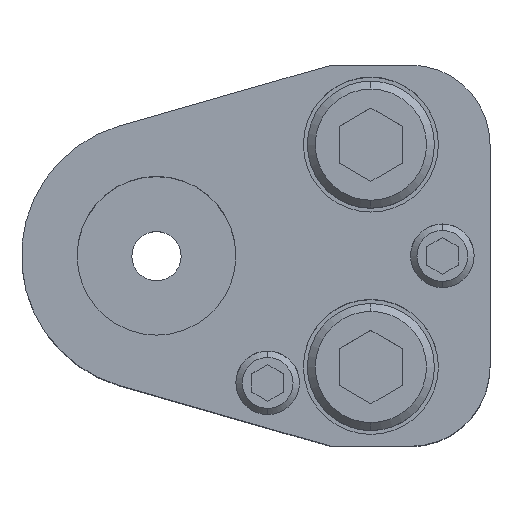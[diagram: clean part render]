
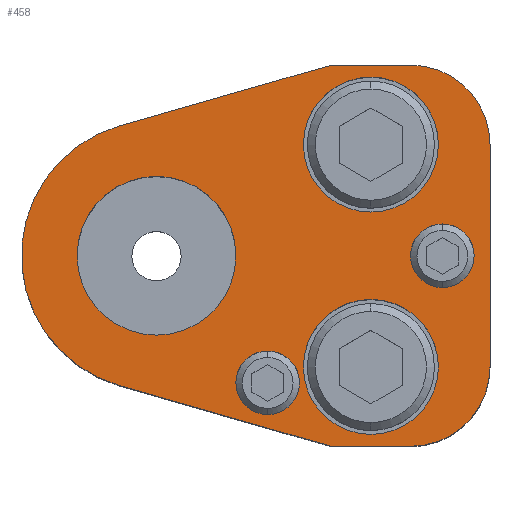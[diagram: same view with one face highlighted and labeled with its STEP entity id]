
A CAD part, top view. The second image highlights one B-rep face of the part: STEP entity #458.
In plain terms, the highlighted planar face has unit normal (0, 0, 1).
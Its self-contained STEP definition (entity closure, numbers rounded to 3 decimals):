
#217=FACE_BOUND('',#825,.T.);
#218=FACE_BOUND('',#826,.T.);
#219=FACE_BOUND('',#827,.T.);
#220=FACE_BOUND('',#828,.T.);
#221=FACE_BOUND('',#829,.T.);
#222=FACE_BOUND('',#830,.T.);
#273=CIRCLE('',#2646,17.);
#275=CIRCLE('',#2651,10.);
#277=CIRCLE('',#2655,10.);
#295=CIRCLE('',#2683,8.5);
#297=CIRCLE('',#2686,8.5);
#299=CIRCLE('',#2690,8.5);
#301=CIRCLE('',#2693,8.5);
#303=CIRCLE('',#2697,4.);
#304=CIRCLE('',#2698,4.);
#305=CIRCLE('',#2699,4.);
#306=CIRCLE('',#2700,4.);
#307=CIRCLE('',#2701,10.);
#308=CIRCLE('',#2702,10.);
#458=ADVANCED_FACE('',(#217,#218,#219,#220,#221,#222),#588,.T.);
#588=PLANE('',#2703);
#825=EDGE_LOOP('',(#1181,#1182,#1183,#1184,#1185,#1186,#1187,#1188));
#826=EDGE_LOOP('',(#1189,#1190));
#827=EDGE_LOOP('',(#1191,#1192));
#828=EDGE_LOOP('',(#1193,#1194));
#829=EDGE_LOOP('',(#1195,#1196));
#830=EDGE_LOOP('',(#1197,#1198));
#1181=ORIENTED_EDGE('',*,*,#1934,.T.);
#1182=ORIENTED_EDGE('',*,*,#1938,.T.);
#1183=ORIENTED_EDGE('',*,*,#1941,.T.);
#1184=ORIENTED_EDGE('',*,*,#1944,.T.);
#1185=ORIENTED_EDGE('',*,*,#1947,.T.);
#1186=ORIENTED_EDGE('',*,*,#1950,.T.);
#1187=ORIENTED_EDGE('',*,*,#1953,.T.);
#1188=ORIENTED_EDGE('',*,*,#1956,.T.);
#1189=ORIENTED_EDGE('',*,*,#1991,.F.);
#1190=ORIENTED_EDGE('',*,*,#1992,.F.);
#1191=ORIENTED_EDGE('',*,*,#1993,.F.);
#1192=ORIENTED_EDGE('',*,*,#1994,.F.);
#1193=ORIENTED_EDGE('',*,*,#1989,.F.);
#1194=ORIENTED_EDGE('',*,*,#1985,.F.);
#1195=ORIENTED_EDGE('',*,*,#1983,.F.);
#1196=ORIENTED_EDGE('',*,*,#1979,.F.);
#1197=ORIENTED_EDGE('',*,*,#1995,.T.);
#1198=ORIENTED_EDGE('',*,*,#1996,.T.);
#1688=VERTEX_POINT('',#3846);
#1689=VERTEX_POINT('',#3848);
#1692=VERTEX_POINT('',#3855);
#1694=VERTEX_POINT('',#3861);
#1696=VERTEX_POINT('',#3867);
#1698=VERTEX_POINT('',#3873);
#1700=VERTEX_POINT('',#3879);
#1702=VERTEX_POINT('',#3885);
#1719=VERTEX_POINT('',#3938);
#1720=VERTEX_POINT('',#3939);
#1723=VERTEX_POINT('',#3951);
#1724=VERTEX_POINT('',#3952);
#1727=VERTEX_POINT('',#3964);
#1728=VERTEX_POINT('',#3965);
#1729=VERTEX_POINT('',#3968);
#1730=VERTEX_POINT('',#3969);
#1731=VERTEX_POINT('',#3972);
#1732=VERTEX_POINT('',#3973);
#1934=EDGE_CURVE('',#1689,#1688,#273,.T.);
#1938=EDGE_CURVE('',#1688,#1692,#2266,.T.);
#1941=EDGE_CURVE('',#1692,#1694,#2269,.T.);
#1944=EDGE_CURVE('',#1694,#1696,#275,.T.);
#1947=EDGE_CURVE('',#1696,#1698,#2273,.T.);
#1950=EDGE_CURVE('',#1698,#1700,#277,.T.);
#1953=EDGE_CURVE('',#1700,#1702,#2277,.T.);
#1956=EDGE_CURVE('',#1702,#1689,#2280,.T.);
#1979=EDGE_CURVE('',#1719,#1720,#295,.T.);
#1983=EDGE_CURVE('',#1720,#1719,#297,.T.);
#1985=EDGE_CURVE('',#1723,#1724,#299,.T.);
#1989=EDGE_CURVE('',#1724,#1723,#301,.T.);
#1991=EDGE_CURVE('',#1727,#1728,#303,.T.);
#1992=EDGE_CURVE('',#1728,#1727,#304,.T.);
#1993=EDGE_CURVE('',#1729,#1730,#305,.T.);
#1994=EDGE_CURVE('',#1730,#1729,#306,.T.);
#1995=EDGE_CURVE('',#1731,#1732,#307,.T.);
#1996=EDGE_CURVE('',#1732,#1731,#308,.T.);
#2266=LINE('',#3856,#2458);
#2269=LINE('',#3862,#2461);
#2273=LINE('',#3874,#2465);
#2277=LINE('',#3886,#2469);
#2280=LINE('',#3890,#2472);
#2458=VECTOR('',#3056,1.);
#2461=VECTOR('',#3061,1.);
#2465=VECTOR('',#3073,1.);
#2469=VECTOR('',#3085,1.);
#2472=VECTOR('',#3090,1.);
#2646=AXIS2_PLACEMENT_3D('',#3847,#3048,#3049);
#2651=AXIS2_PLACEMENT_3D('',#3868,#3066,#3067);
#2655=AXIS2_PLACEMENT_3D('',#3880,#3078,#3079);
#2683=AXIS2_PLACEMENT_3D('',#3937,#3145,#3146);
#2686=AXIS2_PLACEMENT_3D('',#3946,#3153,#3154);
#2690=AXIS2_PLACEMENT_3D('',#3950,#3161,#3162);
#2693=AXIS2_PLACEMENT_3D('',#3959,#3169,#3170);
#2697=AXIS2_PLACEMENT_3D('',#3963,#3177,#3178);
#2698=AXIS2_PLACEMENT_3D('',#3966,#3179,#3180);
#2699=AXIS2_PLACEMENT_3D('',#3967,#3181,#3182);
#2700=AXIS2_PLACEMENT_3D('',#3970,#3183,#3184);
#2701=AXIS2_PLACEMENT_3D('',#3971,#3185,#3186);
#2702=AXIS2_PLACEMENT_3D('',#3974,#3187,#3188);
#2703=AXIS2_PLACEMENT_3D('',#3975,#3189,#3190);
#3048=DIRECTION('',(0.,0.,1.));
#3049=DIRECTION('',(0.,1.,0.));
#3056=DIRECTION('',(0.961,-0.276,0.));
#3061=DIRECTION('',(1.,0.,0.));
#3066=DIRECTION('',(0.,0.,1.));
#3067=DIRECTION('',(-0.707,0.707,0.));
#3073=DIRECTION('',(0.,1.,0.));
#3078=DIRECTION('',(0.,0.,1.));
#3079=DIRECTION('',(-0.707,-0.707,0.));
#3085=DIRECTION('',(-1.,0.,0.));
#3090=DIRECTION('',(-0.961,-0.276,0.));
#3145=DIRECTION('',(0.,0.,1.));
#3146=DIRECTION('',(-1.,0.,0.));
#3153=DIRECTION('',(0.,0.,1.));
#3154=DIRECTION('',(1.,0.,0.));
#3161=DIRECTION('',(0.,0.,1.));
#3162=DIRECTION('',(-1.,0.,0.));
#3169=DIRECTION('',(0.,0.,1.));
#3170=DIRECTION('',(1.,0.,0.));
#3177=DIRECTION('',(0.,0.,1.));
#3178=DIRECTION('',(1.,0.,0.));
#3179=DIRECTION('',(0.,0.,1.));
#3180=DIRECTION('',(-1.,0.,0.));
#3181=DIRECTION('',(0.,0.,1.));
#3182=DIRECTION('',(1.,0.,0.));
#3183=DIRECTION('',(0.,0.,1.));
#3184=DIRECTION('',(-1.,0.,0.));
#3185=DIRECTION('',(0.,0.,-1.));
#3186=DIRECTION('',(-1.,0.,0.));
#3187=DIRECTION('',(0.,0.,-1.));
#3188=DIRECTION('',(1.,0.,0.));
#3189=DIRECTION('',(0.,0.,1.));
#3190=DIRECTION('',(0.961,0.276,0.));
#3846=CARTESIAN_POINT('',(-4.69,-16.34,40.));
#3847=CARTESIAN_POINT('',(0.,0.,40.));
#3848=CARTESIAN_POINT('',(-4.69,16.34,40.));
#3855=CARTESIAN_POINT('',(22.,-24.,40.));
#3856=CARTESIAN_POINT('',(22.,-24.,40.));
#3861=CARTESIAN_POINT('',(32.,-24.,40.));
#3862=CARTESIAN_POINT('',(22.,-24.,40.));
#3867=CARTESIAN_POINT('',(42.,-14.,40.));
#3868=CARTESIAN_POINT('',(32.,-14.,40.));
#3873=CARTESIAN_POINT('',(42.,14.,40.));
#3874=CARTESIAN_POINT('',(42.,-14.,40.));
#3879=CARTESIAN_POINT('',(32.,24.,40.));
#3880=CARTESIAN_POINT('',(32.,14.,40.));
#3885=CARTESIAN_POINT('',(22.,24.,40.));
#3886=CARTESIAN_POINT('',(22.,24.,40.));
#3890=CARTESIAN_POINT('',(22.,24.,40.));
#3937=CARTESIAN_POINT('',(27.,14.,40.));
#3938=CARTESIAN_POINT('',(27.,5.5,40.));
#3939=CARTESIAN_POINT('',(27.,22.5,40.));
#3946=CARTESIAN_POINT('',(27.,14.,40.));
#3950=CARTESIAN_POINT('',(27.,-14.,40.));
#3951=CARTESIAN_POINT('',(27.,-22.5,40.));
#3952=CARTESIAN_POINT('',(27.,-5.5,40.));
#3959=CARTESIAN_POINT('',(27.,-14.,40.));
#3963=CARTESIAN_POINT('',(14.,-16.,40.));
#3964=CARTESIAN_POINT('',(14.,-12.,40.));
#3965=CARTESIAN_POINT('',(14.,-20.,40.));
#3966=CARTESIAN_POINT('',(14.,-16.,40.));
#3967=CARTESIAN_POINT('',(36.,0.,40.));
#3968=CARTESIAN_POINT('',(36.,4.,40.));
#3969=CARTESIAN_POINT('',(36.,-4.,40.));
#3970=CARTESIAN_POINT('',(36.,0.,40.));
#3971=CARTESIAN_POINT('',(0.,0.,40.));
#3972=CARTESIAN_POINT('',(0.,10.,40.));
#3973=CARTESIAN_POINT('',(0.,-10.,40.));
#3974=CARTESIAN_POINT('',(0.,0.,40.));
#3975=CARTESIAN_POINT('',(-4.69,16.34,40.));
